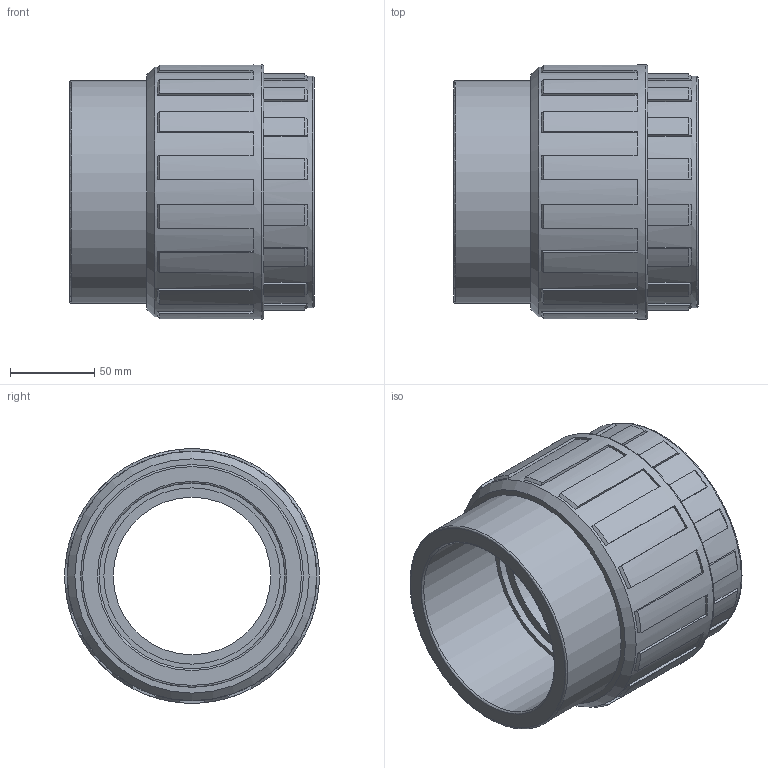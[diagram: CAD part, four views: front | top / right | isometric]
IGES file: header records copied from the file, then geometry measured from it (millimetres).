
Global section: file name: 050802110040.ipt; native system: Autodesk Inventor 2015; preprocessor: unknown; author: KIM; date: 20171207.165000; units: millimetre
Bounding box: 145 x 151 x 151 mm (x, y, z)
Volume: 1019571.5 mm3; surface area: 136069.1 mm2
Topology: 1 solids, 1 shells, 149 faces, 438 edges, 296 vertices
Faces by surface type: plane 87, cone 33, cylinder 20, revolution 9
Full cylindrical faces by diameter (mm): 132 x1, 137.5 x1, 147.98 x1, 151 x1
